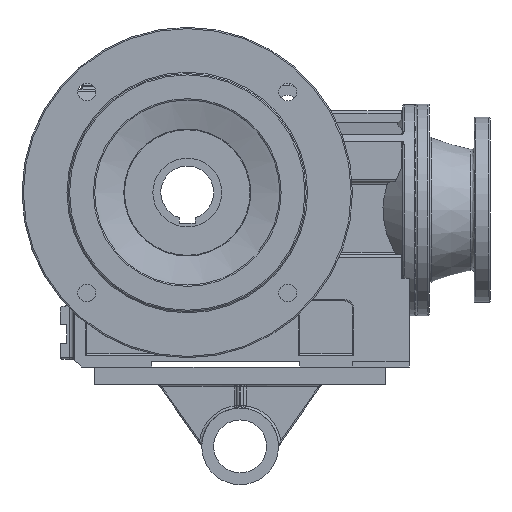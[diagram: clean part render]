
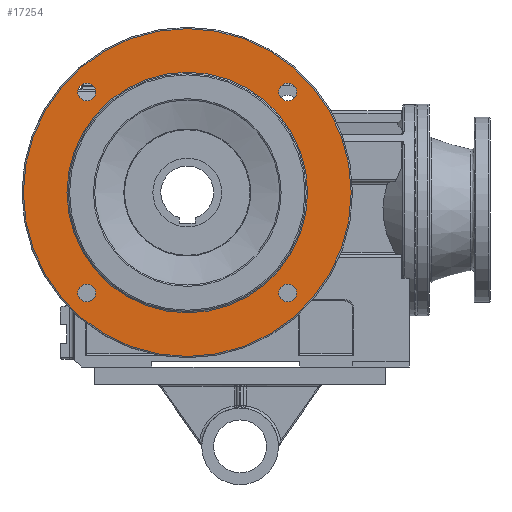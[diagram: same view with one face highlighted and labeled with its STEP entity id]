
A CAD part, front view. The second image highlights one B-rep face of the part: STEP entity #17254.
In plain terms, the highlighted planar face has unit normal (0, -1, 0).
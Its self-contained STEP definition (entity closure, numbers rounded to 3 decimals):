
#16894=CARTESIAN_POINT('',(-69.264,-26.5,76.014));
#16895=VERTEX_POINT('',#16894);
#16896=CARTESIAN_POINT('',(-76.014,-26.5,76.014));
#16897=DIRECTION('',(0.0,1.0,0.0));
#16898=DIRECTION('',(1.0,0.0,0.0));
#16899=AXIS2_PLACEMENT_3D('',#16896,#16897,#16898);
#16900=CIRCLE('',#16899,6.75);
#16901=EDGE_CURVE('',#16895,#16895,#16900,.T.);
#16943=CARTESIAN_POINT('',(-69.264,-26.5,-76.014));
#16944=VERTEX_POINT('',#16943);
#16945=CARTESIAN_POINT('',(-76.014,-26.5,-76.014));
#16946=DIRECTION('',(0.0,1.0,0.0));
#16947=DIRECTION('',(1.0,0.0,0.0));
#16948=AXIS2_PLACEMENT_3D('',#16945,#16946,#16947);
#16949=CIRCLE('',#16948,6.75);
#16950=EDGE_CURVE('',#16944,#16944,#16949,.T.);
#16992=CARTESIAN_POINT('',(82.764,-26.5,-76.014));
#16993=VERTEX_POINT('',#16992);
#16994=CARTESIAN_POINT('',(76.014,-26.5,-76.014));
#16995=DIRECTION('',(0.0,1.0,0.0));
#16996=DIRECTION('',(1.0,0.0,0.0));
#16997=AXIS2_PLACEMENT_3D('',#16994,#16995,#16996);
#16998=CIRCLE('',#16997,6.75);
#16999=EDGE_CURVE('',#16993,#16993,#16998,.T.);
#17041=CARTESIAN_POINT('',(82.764,-26.5,76.014));
#17042=VERTEX_POINT('',#17041);
#17043=CARTESIAN_POINT('',(76.014,-26.5,76.014));
#17044=DIRECTION('',(0.0,1.0,0.0));
#17045=DIRECTION('',(1.0,0.0,0.0));
#17046=AXIS2_PLACEMENT_3D('',#17043,#17044,#17045);
#17047=CIRCLE('',#17046,6.75);
#17048=EDGE_CURVE('',#17042,#17042,#17047,.T.);
#17208=CARTESIAN_POINT('',(-124.0,-26.5,0.0));
#17209=VERTEX_POINT('',#17208);
#17210=CARTESIAN_POINT('',(0.0,-26.5,0.0));
#17211=DIRECTION('',(0.0,1.0,0.0));
#17212=DIRECTION('',(1.0,0.0,0.0));
#17213=AXIS2_PLACEMENT_3D('',#17210,#17211,#17212);
#17214=CIRCLE('',#17213,124.0);
#17215=EDGE_CURVE('',#17209,#17209,#17214,.T.);
#17223=CARTESIAN_POINT('',(-107.5,-26.5,0.));
#17224=DIRECTION('',(0.0,-1.0,0.0));
#17225=DIRECTION('',(0.0,0.0,-1.0));
#17226=AXIS2_PLACEMENT_3D('',#17223,#17224,#17225);
#17227=PLANE('',#17226);
#17228=ORIENTED_EDGE('',*,*,#17215,.F.);
#17229=EDGE_LOOP('',(#17228));
#17230=FACE_OUTER_BOUND('',#17229,.T.);
#17231=ORIENTED_EDGE('',*,*,#16901,.T.);
#17232=EDGE_LOOP('',(#17231));
#17233=FACE_BOUND('',#17232,.T.);
#17234=ORIENTED_EDGE('',*,*,#16950,.T.);
#17235=EDGE_LOOP('',(#17234));
#17236=FACE_BOUND('',#17235,.T.);
#17237=ORIENTED_EDGE('',*,*,#16999,.T.);
#17238=EDGE_LOOP('',(#17237));
#17239=FACE_BOUND('',#17238,.T.);
#17240=ORIENTED_EDGE('',*,*,#17048,.T.);
#17241=EDGE_LOOP('',(#17240));
#17242=FACE_BOUND('',#17241,.T.);
#17243=CARTESIAN_POINT('',(-91.0,-26.5,0.));
#17244=VERTEX_POINT('',#17243);
#17245=CARTESIAN_POINT('',(0.0,-26.5,0.0));
#17246=DIRECTION('',(0.0,-1.0,0.0));
#17247=DIRECTION('',(1.0,0.0,0.0));
#17248=AXIS2_PLACEMENT_3D('',#17245,#17246,#17247);
#17249=CIRCLE('',#17248,91.0);
#17250=EDGE_CURVE('',#17244,#17244,#17249,.T.);
#17251=ORIENTED_EDGE('',*,*,#17250,.F.);
#17252=EDGE_LOOP('',(#17251));
#17253=FACE_BOUND('',#17252,.T.);
#17254=ADVANCED_FACE('',(#17230,#17233,#17236,#17239,#17242,#17253),#17227,.T.);
